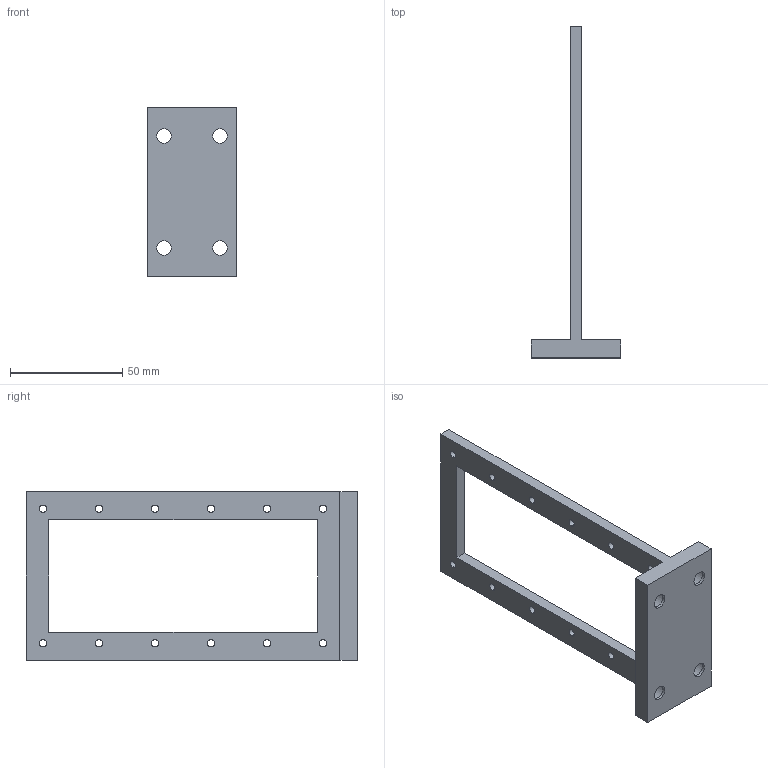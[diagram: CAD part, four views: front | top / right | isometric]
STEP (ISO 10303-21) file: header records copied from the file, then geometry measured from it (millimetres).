
FILE_DESCRIPTION (( 'STEP AP203' ), '1' );
FILE_NAME ('狫瑜2盓殤.STEP', '2026-07-21T13:17:21', ( '' ), ( '' ), 'SwSTEP 2.0', 'SolidWorks 2023', '' );
FILE_SCHEMA (( 'CONFIG_CONTROL_DESIGN' ));
Length unit declared in the file: millimetre
Products named in the file (1): 狭缝2支架
Bounding box: 40 x 148 x 75 mm (x, y, z)
Volume: 43237.7 mm3; surface area: 21122.6 mm2
Topology: 1 solids, 1 shells, 58 faces, 156 edges, 104 vertices
Faces by surface type: cylinder 40, plane 18
Entity records: 2005 total; most frequent: DIRECTION 354, CARTESIAN_POINT 319, ORIENTED_EDGE 312, EDGE_CURVE 156, AXIS2_PLACEMENT_3D 139, VERTEX_POINT 104, EDGE_LOOP 96, CIRCLE 80
